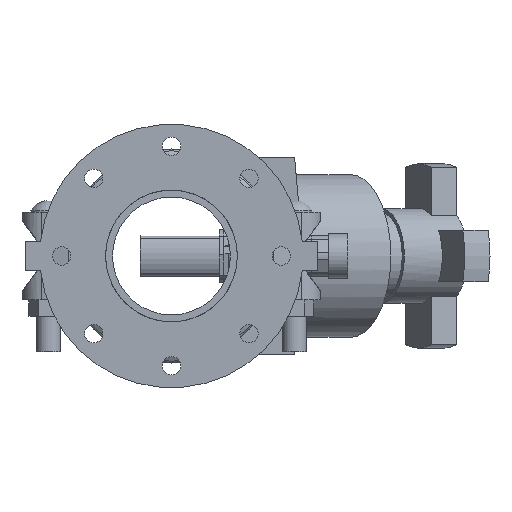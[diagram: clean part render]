
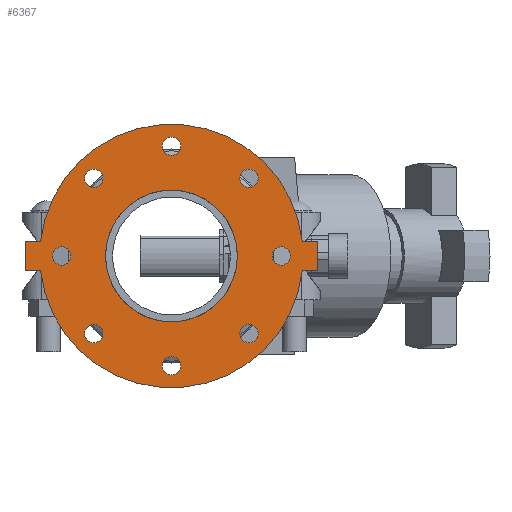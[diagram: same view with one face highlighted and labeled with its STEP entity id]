
A CAD part, front view. The second image highlights one B-rep face of the part: STEP entity #6367.
In plain terms, the highlighted planar face has unit normal (0, -1, 0) as drawn and (0, 0, 1) by its records, which use the part's own axes.
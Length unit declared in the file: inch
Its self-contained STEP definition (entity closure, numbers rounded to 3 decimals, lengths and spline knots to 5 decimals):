
#178=FACE_BOUND('',#812,.T.);
#179=FACE_BOUND('',#813,.T.);
#180=FACE_BOUND('',#814,.T.);
#181=FACE_BOUND('',#815,.T.);
#182=FACE_BOUND('',#816,.T.);
#183=FACE_BOUND('',#817,.T.);
#184=FACE_BOUND('',#818,.T.);
#185=FACE_BOUND('',#819,.T.);
#186=FACE_BOUND('',#820,.T.);
#249=PLANE('',#6933);
#458=FACE_OUTER_BOUND('',#811,.T.);
#811=EDGE_LOOP('',(#4138,#4139,#4140,#4141,#4142,#4143,#4144,#4145));
#812=EDGE_LOOP('',(#4146));
#813=EDGE_LOOP('',(#4147));
#814=EDGE_LOOP('',(#4148));
#815=EDGE_LOOP('',(#4149));
#816=EDGE_LOOP('',(#4150));
#817=EDGE_LOOP('',(#4151));
#818=EDGE_LOOP('',(#4152));
#819=EDGE_LOOP('',(#4153));
#820=EDGE_LOOP('',(#4154,#4155));
#1221=LINE('',#9738,#1695);
#1222=LINE('',#9741,#1696);
#1225=LINE('',#9746,#1699);
#1226=LINE('',#9749,#1700);
#1228=LINE('',#9752,#1702);
#1229=LINE('',#9754,#1703);
#1695=VECTOR('',#7748,0.3937);
#1696=VECTOR('',#7751,0.3937);
#1699=VECTOR('',#7756,0.3937);
#1700=VECTOR('',#7759,0.3937);
#1702=VECTOR('',#7763,0.3937);
#1703=VECTOR('',#7766,0.3937);
#2149=CIRCLE('',#6892,0.3125);
#2151=CIRCLE('',#6895,0.3125);
#2153=CIRCLE('',#6898,0.3125);
#2155=CIRCLE('',#6901,0.3125);
#2157=CIRCLE('',#6904,0.3125);
#2159=CIRCLE('',#6907,0.3125);
#2161=CIRCLE('',#6910,0.3125);
#2163=CIRCLE('',#6913,0.3125);
#2169=CIRCLE('',#6921,4.5);
#2170=CIRCLE('',#6923,2.25);
#2171=CIRCLE('',#6924,2.25);
#2172=CIRCLE('',#6926,4.5);
#2519=VERTEX_POINT('',#9649);
#2521=VERTEX_POINT('',#9655);
#2523=VERTEX_POINT('',#9661);
#2525=VERTEX_POINT('',#9667);
#2527=VERTEX_POINT('',#9673);
#2529=VERTEX_POINT('',#9679);
#2531=VERTEX_POINT('',#9685);
#2533=VERTEX_POINT('',#9691);
#2545=VERTEX_POINT('',#9718);
#2546=VERTEX_POINT('',#9720);
#2547=VERTEX_POINT('',#9724);
#2548=VERTEX_POINT('',#9726);
#2549=VERTEX_POINT('',#9730);
#2550=VERTEX_POINT('',#9732);
#2551=VERTEX_POINT('',#9736);
#2552=VERTEX_POINT('',#9740);
#2553=VERTEX_POINT('',#9744);
#2554=VERTEX_POINT('',#9748);
#3137=EDGE_CURVE('',#2519,#2519,#2149,.T.);
#3140=EDGE_CURVE('',#2521,#2521,#2151,.T.);
#3143=EDGE_CURVE('',#2523,#2523,#2153,.T.);
#3146=EDGE_CURVE('',#2525,#2525,#2155,.T.);
#3149=EDGE_CURVE('',#2527,#2527,#2157,.T.);
#3152=EDGE_CURVE('',#2529,#2529,#2159,.T.);
#3155=EDGE_CURVE('',#2531,#2531,#2161,.T.);
#3158=EDGE_CURVE('',#2533,#2533,#2163,.T.);
#3173=EDGE_CURVE('',#2545,#2546,#2169,.T.);
#3175=EDGE_CURVE('',#2548,#2547,#2170,.T.);
#3176=EDGE_CURVE('',#2547,#2548,#2171,.T.);
#3178=EDGE_CURVE('',#2550,#2549,#2172,.T.);
#3181=EDGE_CURVE('',#2546,#2551,#1221,.T.);
#3182=EDGE_CURVE('',#2552,#2550,#1222,.T.);
#3185=EDGE_CURVE('',#2549,#2553,#1225,.T.);
#3186=EDGE_CURVE('',#2554,#2545,#1226,.T.);
#3188=EDGE_CURVE('',#2553,#2554,#1228,.T.);
#3189=EDGE_CURVE('',#2551,#2552,#1229,.T.);
#4138=ORIENTED_EDGE('',*,*,#3185,.T.);
#4139=ORIENTED_EDGE('',*,*,#3188,.T.);
#4140=ORIENTED_EDGE('',*,*,#3186,.T.);
#4141=ORIENTED_EDGE('',*,*,#3173,.T.);
#4142=ORIENTED_EDGE('',*,*,#3181,.T.);
#4143=ORIENTED_EDGE('',*,*,#3189,.T.);
#4144=ORIENTED_EDGE('',*,*,#3182,.T.);
#4145=ORIENTED_EDGE('',*,*,#3178,.T.);
#4146=ORIENTED_EDGE('',*,*,#3137,.T.);
#4147=ORIENTED_EDGE('',*,*,#3140,.T.);
#4148=ORIENTED_EDGE('',*,*,#3143,.T.);
#4149=ORIENTED_EDGE('',*,*,#3146,.T.);
#4150=ORIENTED_EDGE('',*,*,#3149,.T.);
#4151=ORIENTED_EDGE('',*,*,#3152,.T.);
#4152=ORIENTED_EDGE('',*,*,#3155,.T.);
#4153=ORIENTED_EDGE('',*,*,#3158,.T.);
#4154=ORIENTED_EDGE('',*,*,#3175,.T.);
#4155=ORIENTED_EDGE('',*,*,#3176,.T.);
#6367=ADVANCED_FACE('',(#458,#178,#179,#180,#181,#182,#183,#184,#185,#186),
#249,.T.);
#6892=AXIS2_PLACEMENT_3D('',#9650,#7656,#7657);
#6895=AXIS2_PLACEMENT_3D('',#9656,#7663,#7664);
#6898=AXIS2_PLACEMENT_3D('',#9662,#7670,#7671);
#6901=AXIS2_PLACEMENT_3D('',#9668,#7677,#7678);
#6904=AXIS2_PLACEMENT_3D('',#9674,#7684,#7685);
#6907=AXIS2_PLACEMENT_3D('',#9680,#7691,#7692);
#6910=AXIS2_PLACEMENT_3D('',#9686,#7698,#7699);
#6913=AXIS2_PLACEMENT_3D('',#9692,#7705,#7706);
#6921=AXIS2_PLACEMENT_3D('',#9722,#7730,#7731);
#6923=AXIS2_PLACEMENT_3D('',#9727,#7735,#7736);
#6924=AXIS2_PLACEMENT_3D('',#9728,#7737,#7738);
#6926=AXIS2_PLACEMENT_3D('',#9733,#7742,#7743);
#6933=AXIS2_PLACEMENT_3D('',#9755,#7767,#7768);
#7656=DIRECTION('center_axis',(0.,0.,-1.));
#7657=DIRECTION('ref_axis',(-0.707,0.707,0.));
#7663=DIRECTION('center_axis',(0.,0.,-1.));
#7664=DIRECTION('ref_axis',(0.,1.,0.));
#7670=DIRECTION('center_axis',(0.,0.,-1.));
#7671=DIRECTION('ref_axis',(0.707,0.707,0.));
#7677=DIRECTION('center_axis',(0.,0.,-1.));
#7678=DIRECTION('ref_axis',(1.,0.,0.));
#7684=DIRECTION('center_axis',(0.,0.,-1.));
#7685=DIRECTION('ref_axis',(0.707,-0.707,0.));
#7691=DIRECTION('center_axis',(0.,0.,-1.));
#7692=DIRECTION('ref_axis',(0.,-1.,0.));
#7698=DIRECTION('center_axis',(0.,0.,-1.));
#7699=DIRECTION('ref_axis',(-0.707,-0.707,0.));
#7705=DIRECTION('center_axis',(0.,0.,-1.));
#7706=DIRECTION('ref_axis',(-1.,0.,0.));
#7730=DIRECTION('center_axis',(0.,0.,1.));
#7731=DIRECTION('ref_axis',(-1.,0.,0.));
#7735=DIRECTION('center_axis',(0.,0.,-1.));
#7736=DIRECTION('ref_axis',(-1.,0.,0.));
#7737=DIRECTION('center_axis',(0.,0.,-1.));
#7738=DIRECTION('ref_axis',(-1.,0.,0.));
#7742=DIRECTION('center_axis',(0.,0.,1.));
#7743=DIRECTION('ref_axis',(-1.,0.,0.));
#7748=DIRECTION('',(0.,1.,0.));
#7751=DIRECTION('',(0.,-1.,0.));
#7756=DIRECTION('',(0.,-1.,0.));
#7759=DIRECTION('',(0.,1.,0.));
#7763=DIRECTION('',(1.,0.,0.));
#7766=DIRECTION('',(-1.,0.,0.));
#7767=DIRECTION('center_axis',(0.,0.,1.));
#7768=DIRECTION('ref_axis',(1.,0.,0.));
#9649=CARTESIAN_POINT('',(-2.43068,2.43068,0.5));
#9650=CARTESIAN_POINT('Origin',(-2.65165,2.65165,0.5));
#9655=CARTESIAN_POINT('',(0.,3.4375,0.5));
#9656=CARTESIAN_POINT('Origin',(0.,3.75,0.5));
#9661=CARTESIAN_POINT('',(2.43068,2.43068,0.5));
#9662=CARTESIAN_POINT('Origin',(2.65165,2.65165,0.5));
#9667=CARTESIAN_POINT('',(3.4375,0.,0.5));
#9668=CARTESIAN_POINT('Origin',(3.75,0.,0.5));
#9673=CARTESIAN_POINT('',(2.43068,-2.43068,0.5));
#9674=CARTESIAN_POINT('Origin',(2.65165,-2.65165,0.5));
#9679=CARTESIAN_POINT('',(0.,-3.4375,0.5));
#9680=CARTESIAN_POINT('Origin',(0.,-3.75,0.5));
#9685=CARTESIAN_POINT('',(-2.43068,-2.43068,0.5));
#9686=CARTESIAN_POINT('Origin',(-2.65165,-2.65165,0.5));
#9691=CARTESIAN_POINT('',(-3.4375,0.,0.5));
#9692=CARTESIAN_POINT('Origin',(-3.75,0.,0.5));
#9718=CARTESIAN_POINT('',(0.5,-4.47214,0.5));
#9720=CARTESIAN_POINT('',(0.5,4.47214,0.5));
#9722=CARTESIAN_POINT('Origin',(0.,0.,0.5));
#9724=CARTESIAN_POINT('',(2.25,0.,0.5));
#9726=CARTESIAN_POINT('',(0.5,2.19374,0.5));
#9727=CARTESIAN_POINT('Origin',(0.,0.,0.5));
#9728=CARTESIAN_POINT('Origin',(0.,0.,0.5));
#9730=CARTESIAN_POINT('',(-0.5,-4.47214,0.5));
#9732=CARTESIAN_POINT('',(-0.5,4.47214,0.5));
#9733=CARTESIAN_POINT('Origin',(0.,0.,0.5));
#9736=CARTESIAN_POINT('',(0.5,5.,0.5));
#9738=CARTESIAN_POINT('',(0.5,5.,0.5));
#9740=CARTESIAN_POINT('',(-0.5,5.,0.5));
#9741=CARTESIAN_POINT('',(-0.5,-5.,0.5));
#9744=CARTESIAN_POINT('',(-0.5,-5.,0.5));
#9746=CARTESIAN_POINT('',(-0.5,-5.,0.5));
#9748=CARTESIAN_POINT('',(0.5,-5.,0.5));
#9749=CARTESIAN_POINT('',(0.5,5.,0.5));
#9752=CARTESIAN_POINT('',(0.5,-5.,0.5));
#9754=CARTESIAN_POINT('',(-0.5,5.,0.5));
#9755=CARTESIAN_POINT('Origin',(0.,0.,0.5));
